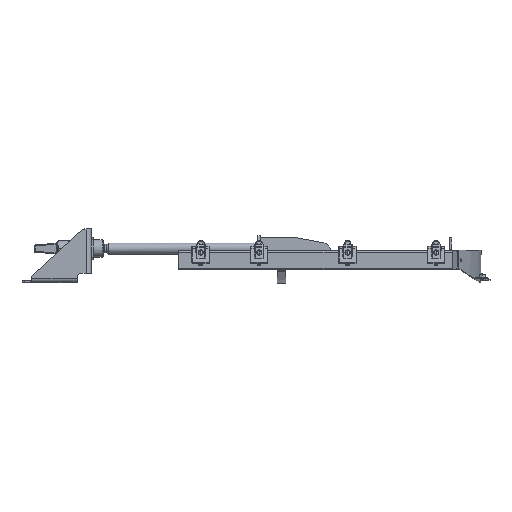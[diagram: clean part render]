
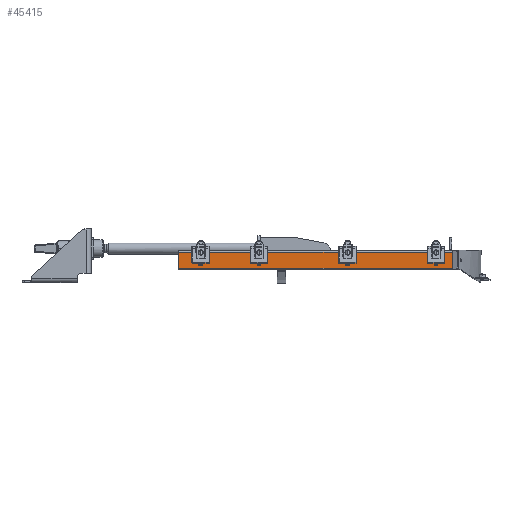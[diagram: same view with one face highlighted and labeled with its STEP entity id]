
A CAD part, left-side view. The second image highlights one B-rep face of the part: STEP entity #45415.
In plain terms, the highlighted planar face has unit normal (-1, 0, 0).
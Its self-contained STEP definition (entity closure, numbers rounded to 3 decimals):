
#987 = VERTEX_POINT ( 'NONE', #25609 ) ;
#1741 = EDGE_CURVE ( 'NONE', #987, #6256, #50123, .T. ) ;
#4783 = EDGE_LOOP ( 'NONE', ( #15847, #17269, #33316, #21705 ) ) ;
#6138 = DIRECTION ( 'NONE',  ( -1., 0., 0. ) ) ;
#6256 = VERTEX_POINT ( 'NONE', #54847 ) ;
#7118 = VECTOR ( 'NONE', #66114, 1000. ) ;
#7542 = DIRECTION ( 'NONE',  ( 0., 0., 1. ) ) ;
#9864 = EDGE_CURVE ( 'NONE', #987, #52967, #23809, .T. ) ;
#13271 = VECTOR ( 'NONE', #66391, 1000. ) ;
#15847 = ORIENTED_EDGE ( 'NONE', *, *, #1741, .F. ) ;
#17269 = ORIENTED_EDGE ( 'NONE', *, *, #9864, .T. ) ;
#18734 = CARTESIAN_POINT ( 'NONE',  ( -215.01, 50.849, 0. ) ) ;
#20794 = VECTOR ( 'NONE', #45998, 1000. ) ;
#21705 = ORIENTED_EDGE ( 'NONE', *, *, #43528, .F. ) ;
#23809 = LINE ( 'NONE', #18734, #45924 ) ;
#25609 = CARTESIAN_POINT ( 'NONE',  ( -215.01, 50.849, 4. ) ) ;
#26158 = CARTESIAN_POINT ( 'NONE',  ( -215.01, -34.201, 40. ) ) ;
#29791 = CARTESIAN_POINT ( 'NONE',  ( -215.01, -34.201, 40. ) ) ;
#31647 = FACE_OUTER_BOUND ( 'NONE', #4783, .T. ) ;
#33316 = ORIENTED_EDGE ( 'NONE', *, *, #40878, .T. ) ;
#35468 = LINE ( 'NONE', #36138, #20794 ) ;
#36138 = CARTESIAN_POINT ( 'NONE',  ( -215.01, 669.205, 40. ) ) ;
#36412 = CARTESIAN_POINT ( 'NONE',  ( -215.01, 50.849, 40. ) ) ;
#40612 = LINE ( 'NONE', #29791, #7118 ) ;
#40878 = EDGE_CURVE ( 'NONE', #52967, #51475, #40612, .T. ) ;
#43528 = EDGE_CURVE ( 'NONE', #6256, #51475, #35468, .T. ) ;
#45415 = ADVANCED_FACE ( 'NONE', ( #31647 ), #48239, .T. ) ;
#45924 = VECTOR ( 'NONE', #7542, 1000. ) ;
#45998 = DIRECTION ( 'NONE',  ( 0., 0., 1. ) ) ;
#46864 = DIRECTION ( 'NONE',  ( 0., 0., 1. ) ) ;
#48216 = AXIS2_PLACEMENT_3D ( 'NONE', #26158, #6138, #46864 ) ;
#48239 = PLANE ( 'NONE',  #48216 ) ;
#49487 = CARTESIAN_POINT ( 'NONE',  ( -215.01, -34.201, 4. ) ) ;
#50123 = LINE ( 'NONE', #49487, #13271 ) ;
#51475 = VERTEX_POINT ( 'NONE', #62055 ) ;
#52967 = VERTEX_POINT ( 'NONE', #36412 ) ;
#54847 = CARTESIAN_POINT ( 'NONE',  ( -215.01, 669.205, 4. ) ) ;
#62055 = CARTESIAN_POINT ( 'NONE',  ( -215.01, 669.205, 40. ) ) ;
#66114 = DIRECTION ( 'NONE',  ( 0., 1., 0. ) ) ;
#66391 = DIRECTION ( 'NONE',  ( 0., 1., 0. ) ) ;
